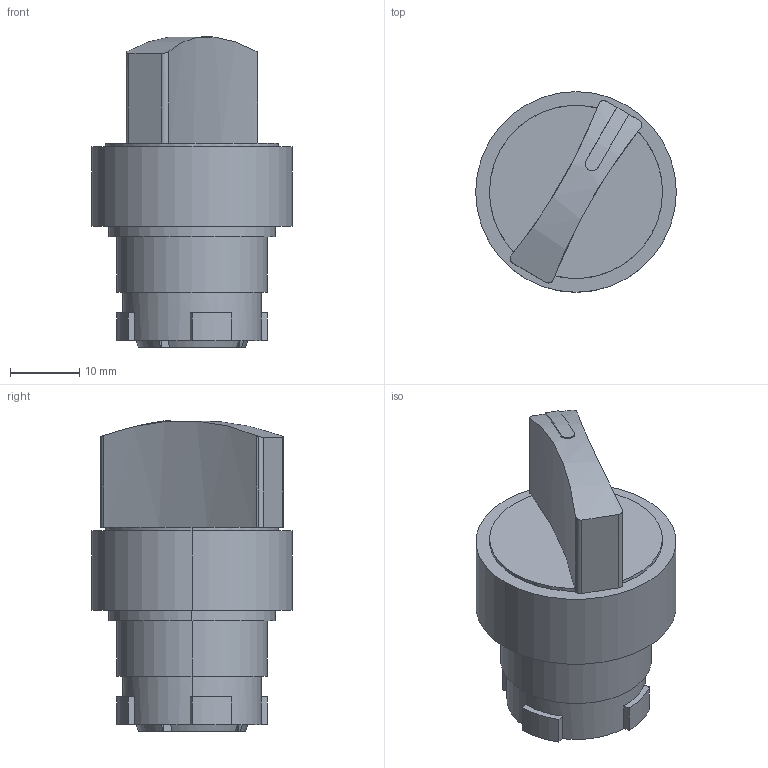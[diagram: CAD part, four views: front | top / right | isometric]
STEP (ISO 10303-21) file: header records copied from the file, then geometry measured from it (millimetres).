
FILE_DESCRIPTION (( 'STEP AP214' ), '1' );
FILE_NAME ('3D 斁麧錪 MTB2-BK23.STEP', '2017-04-19T11:55:02', ( 'adm' ), ( 'MICROSOFT' ), 'SwSTEP 2.0', 'SolidWorks 2011', '' );
FILE_SCHEMA (( 'AUTOMOTIVE_DESIGN' ));
Length unit declared in the file: millimetre
Products named in the file (1): 3D 斁麧錪 MTB2-BK23
Bounding box: 29 x 29 x 44.94 mm (x, y, z)
Volume: 12921.4 mm3; surface area: 7236.6 mm2
Topology: 1 solids, 1 shells, 85 faces, 223 edges, 147 vertices
Faces by surface type: plane 46, cylinder 34, cone 5
Entity records: 3662 total; most frequent: CARTESIAN_POINT 575, DIRECTION 466, ORIENTED_EDGE 446, EDGE_CURVE 223, AXIS2_PLACEMENT_3D 178, VERTEX_POINT 147, LINE 110, VECTOR 110
